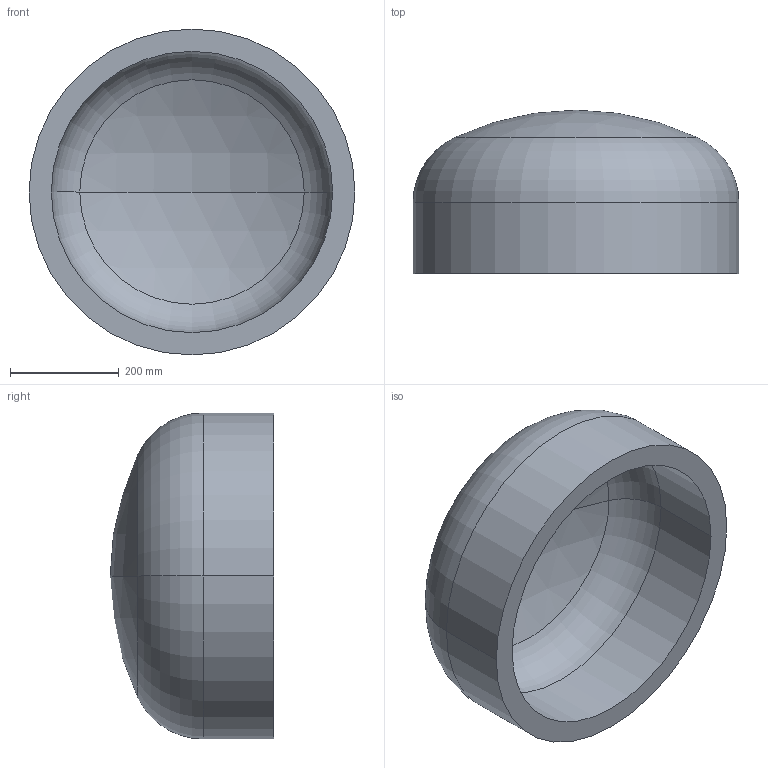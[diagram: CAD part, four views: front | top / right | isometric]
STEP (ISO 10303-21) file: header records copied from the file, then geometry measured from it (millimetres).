
FILE_DESCRIPTION (( 'STEP AP203' ), '1' );
FILE_NAME ('DIN 28013 Korbbogenform_-_Boden DIN 28013 - 600 x 130 - I - s=41.step', '2016-07-01T08:00:33', ( '' ), ( '' ), 'SwSTEP 2.0', 'SolidWorks 2013', '' );
FILE_SCHEMA (( 'CONFIG_CONTROL_DESIGN' ));
Length unit declared in the file: millimetre
Products named in the file (1): DIN 28013 Korbbogenform_-_Boden DIN 28013 - 600 x 130 - I - s=41
Bounding box: 600 x 300.78 x 600 mm (x, y, z)
Volume: 24071512.4 mm3; surface area: 1249742.8 mm2
Topology: 1 solids, 1 shells, 13 faces, 24 edges, 14 vertices
Faces by surface type: torus 4, cylinder 4, sphere 4, plane 1
Entity records: 407 total; most frequent: DIRECTION 72, CARTESIAN_POINT 52, ORIENTED_EDGE 48, AXIS2_PLACEMENT_3D 34, EDGE_CURVE 24, CIRCLE 20, EDGE_LOOP 14, VERTEX_POINT 14
